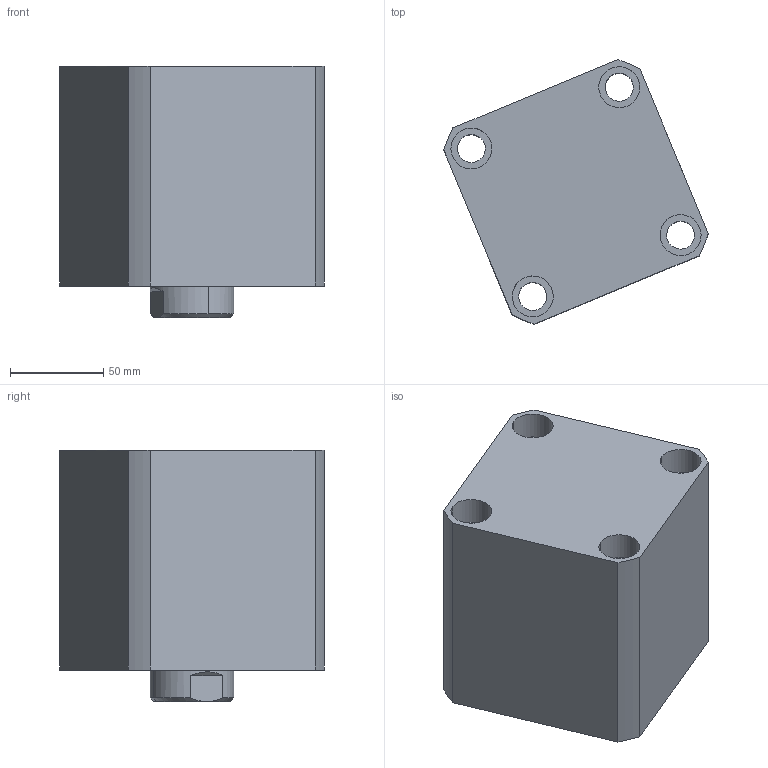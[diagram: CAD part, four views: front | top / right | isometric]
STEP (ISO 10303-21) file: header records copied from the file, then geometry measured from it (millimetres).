
FILE_DESCRIPTION (( 'STEP AP214' ), '1' );
FILE_NAME ('chtb-sd80x40n_asm.STEP', '2018-05-26T07:07:36', ( 'Windows' ), ( 'Microsoft' ), 'SwSTEP 2.0', 'SolidWorks 2015', '' );
FILE_SCHEMA (( 'AUTOMOTIVE_DESIGN' ));
Length unit declared in the file: millimetre
Products named in the file (4): CHTB-SD80X40NHSG; CHTB-SD80X40NBT; CHTB-SD80QG; chtb-sd80x40n_asm
Assembly tree (3 placements, depth 2):
  chtb-sd80x40n_asm
    CHTB-SD80QG
    CHTB-SD80X40NBT
    CHTB-SD80X40NHSG
Bounding box: 142.06 x 142.06 x 135 mm (x, y, z)
Volume: 1253321.7 mm3; surface area: 190507.2 mm2
Topology: 3 solids, 3 shells, 192 faces, 510 edges, 341 vertices
Faces by surface type: cylinder 103, plane 37, cone 20, torus 18, bspline 14
Entity records: 15144 total; most frequent: CARTESIAN_POINT 10435, ORIENTED_EDGE 1008, DIRECTION 889, EDGE_CURVE 504, AXIS2_PLACEMENT_3D 374, VERTEX_POINT 341, EDGE_LOOP 229, ADVANCED_FACE 192
